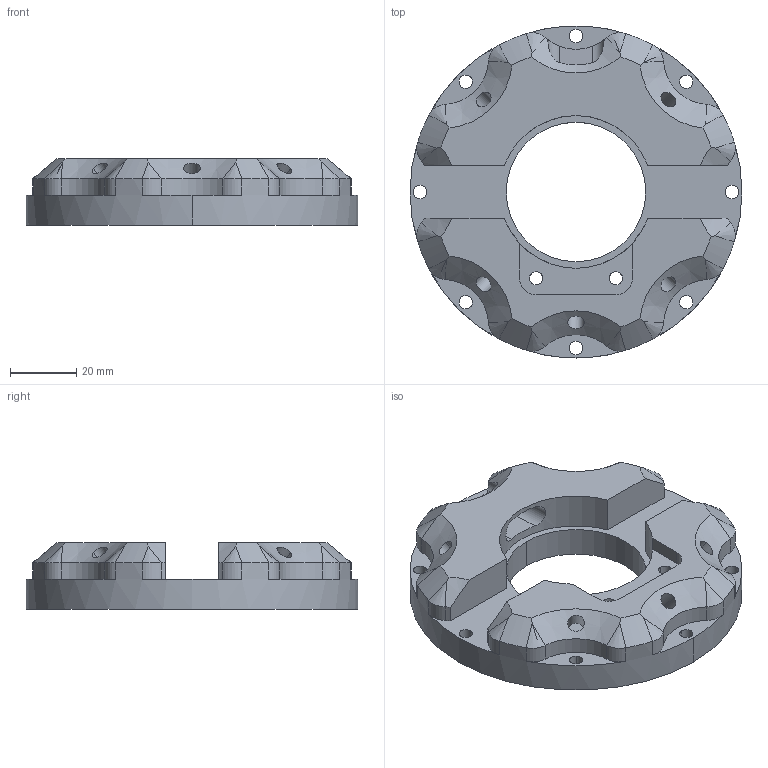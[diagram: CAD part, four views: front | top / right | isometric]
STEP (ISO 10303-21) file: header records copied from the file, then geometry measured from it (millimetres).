
FILE_DESCRIPTION((' '),'2;1');
FILE_NAME( 'Demo-Part+Stock (Part).STEP', '2023-02-20T12:37:29', (' '), ('--- Datakit www.datakit.com---'), ' Datakit CrossCadWare V2022.3 Jun 16 2022', 'GO2cam V6.10', ' ');
FILE_SCHEMA(('AUTOMOTIVE_DESIGN { 1 0 10303 214 1 1 1 1 }'));
Length unit declared in the file: millimetre
Products named in the file (1): part
Bounding box: 100 x 100 x 20 mm (x, y, z)
Volume: 97006.3 mm3; surface area: 23698.4 mm2
Topology: 1 solids, 1 shells, 125 faces, 345 edges, 210 vertices
Faces by surface type: cylinder 66, cone 34, plane 25
Entity records: 5032 total; most frequent: CARTESIAN_POINT 1666, DIRECTION 708, ORIENTED_EDGE 658, EDGE_CURVE 329, AXIS2_PLACEMENT_3D 289, VERTEX_POINT 210, CIRCLE 155, EDGE_LOOP 153
